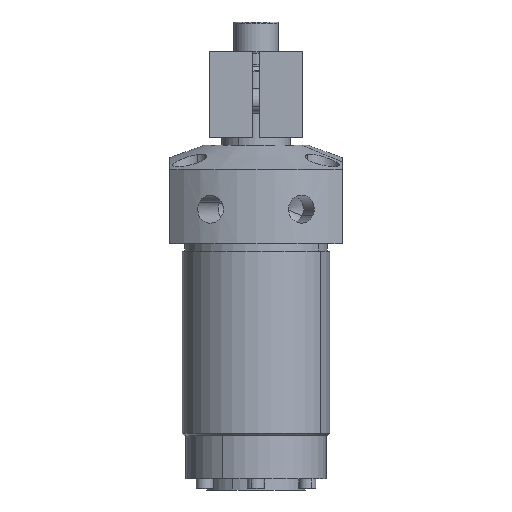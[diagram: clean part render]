
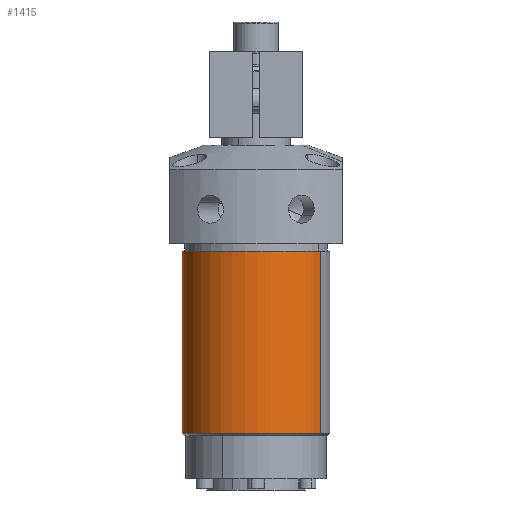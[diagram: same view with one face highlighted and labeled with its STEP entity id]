
A CAD part, left-side view. The second image highlights one B-rep face of the part: STEP entity #1415.
In plain terms, the highlighted cylindrical face has radius 30 mm (diameter 60 mm), a partial arc.
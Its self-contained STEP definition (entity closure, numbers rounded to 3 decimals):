
#1351=CARTESIAN_POINT('Vertex',(-14.383,-26.327,-117.)) ;
#1354=CARTESIAN_POINT('Axis2P3D Location',(0.,0.,-117.)) ;
#1358=CARTESIAN_POINT('Vertex',(14.383,26.327,-117.)) ;
#1385=CARTESIAN_POINT('Axis2P3D Location',(0.,0.,-59.)) ;
#1390=CARTESIAN_POINT('Line Origine',(-14.383,-26.327,-80.)) ;
#1394=CARTESIAN_POINT('Vertex',(-14.383,-26.327,-43.)) ;
#1397=CARTESIAN_POINT('Axis2P3D Location',(0.,0.,-43.)) ;
#1401=CARTESIAN_POINT('Vertex',(14.383,26.327,-43.)) ;
#1404=CARTESIAN_POINT('Line Origine',(14.383,26.327,-80.)) ;
#1355=DIRECTION('Axis2P3D Direction',(-0.,0.,1.)) ;
#1386=DIRECTION('Axis2P3D Direction',(0.,0.,-1.)) ;
#1387=DIRECTION('Axis2P3D XDirection',(0.479,0.878,0.)) ;
#1391=DIRECTION('Vector Direction',(0.,0.,-1.)) ;
#1398=DIRECTION('Axis2P3D Direction',(0.,0.,-1.)) ;
#1405=DIRECTION('Vector Direction',(0.,0.,-1.)) ;
#1356=AXIS2_PLACEMENT_3D('Circle Axis2P3D',#1354,#1355,$) ;
#1388=AXIS2_PLACEMENT_3D('Cylinder Axis2P3D',#1385,#1386,#1387) ;
#1399=AXIS2_PLACEMENT_3D('Circle Axis2P3D',#1397,#1398,$) ;
#1410=ORIENTED_EDGE('',*,*,#1360,.F.) ;
#1411=ORIENTED_EDGE('',*,*,#1396,.T.) ;
#1412=ORIENTED_EDGE('',*,*,#1403,.T.) ;
#1413=ORIENTED_EDGE('',*,*,#1408,.F.) ;
#1392=VECTOR('Line Direction',#1391,1.) ;
#1406=VECTOR('Line Direction',#1405,1.) ;
#1415=ADVANCED_FACE('housing',(#1414),#1389,.T.) ;
#1357=CIRCLE('generated circle',#1356,30.) ;
#1400=CIRCLE('generated circle',#1399,30.) ;
#1389=CYLINDRICAL_SURFACE('generated cylinder',#1388,30.) ;
#1360=EDGE_CURVE('',#1352,#1359,#1357,.F.) ;
#1396=EDGE_CURVE('',#1352,#1395,#1393,.F.) ;
#1403=EDGE_CURVE('',#1395,#1402,#1400,.T.) ;
#1408=EDGE_CURVE('',#1359,#1402,#1407,.F.) ;
#1409=EDGE_LOOP('',(#1410,#1411,#1412,#1413)) ;
#1414=FACE_OUTER_BOUND('',#1409,.T.) ;
#1393=LINE('Line',#1390,#1392) ;
#1407=LINE('Line',#1404,#1406) ;
#1352=VERTEX_POINT('',#1351) ;
#1359=VERTEX_POINT('',#1358) ;
#1395=VERTEX_POINT('',#1394) ;
#1402=VERTEX_POINT('',#1401) ;
